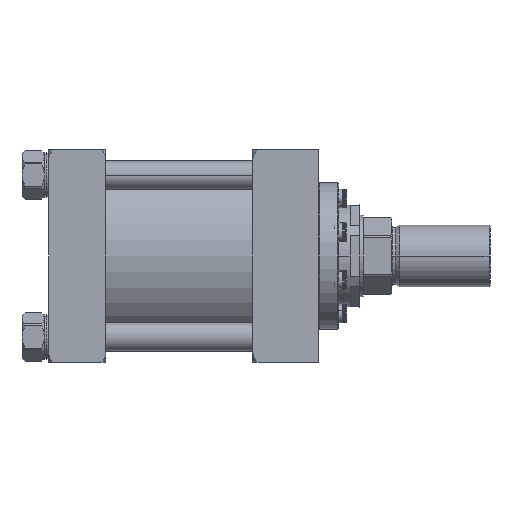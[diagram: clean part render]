
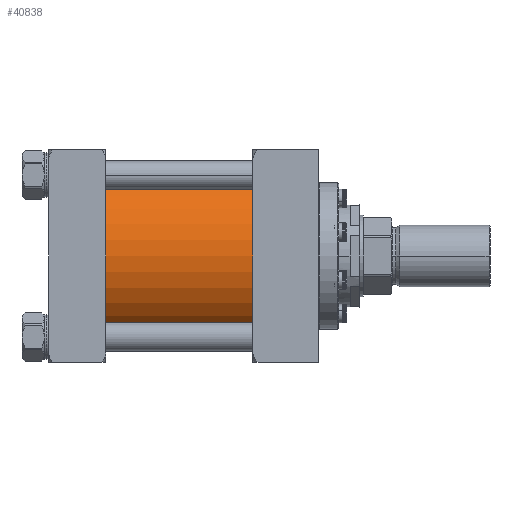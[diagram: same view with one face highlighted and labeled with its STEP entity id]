
A CAD part, front view. The second image highlights one B-rep face of the part: STEP entity #40838.
In plain terms, the highlighted cylindrical face has radius 73.025 mm (diameter 146.05 mm), a partial arc.
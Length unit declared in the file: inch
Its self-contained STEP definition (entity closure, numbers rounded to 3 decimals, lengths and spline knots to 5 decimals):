
#1746 = EDGE_CURVE ( 'NONE', #20973, #80579, #48781, .T. ) ;
#4973 = DIRECTION ( 'NONE',  ( 1., 0., 0. ) ) ;
#6193 = VERTEX_POINT ( 'NONE', #54156 ) ;
#7652 = DIRECTION ( 'NONE',  ( 1., 0., 0. ) ) ;
#10821 = DIRECTION ( 'NONE',  ( 0., 0., -1. ) ) ;
#20973 = VERTEX_POINT ( 'NONE', #67814 ) ;
#21320 = AXIS2_PLACEMENT_3D ( 'NONE', #39919, #4973, #68429 ) ;
#25832 = CIRCLE ( 'NONE', #21320, 2.875 ) ;
#26297 = DIRECTION ( 'NONE',  ( 1., 0., 0. ) ) ;
#27987 = ORIENTED_EDGE ( 'NONE', *, *, #59267, .T. ) ;
#33350 = DIRECTION ( 'NONE',  ( 1., 0., 0. ) ) ;
#33822 = FACE_OUTER_BOUND ( 'NONE', #70202, .T. ) ;
#36093 = CIRCLE ( 'NONE', #80120, 2.875 ) ;
#36338 = AXIS2_PLACEMENT_3D ( 'NONE', #89965, #33350, #10821 ) ;
#39919 = CARTESIAN_POINT ( 'NONE',  ( -4., 0., 0. ) ) ;
#40838 = ADVANCED_FACE ( 'NONE', ( #33822 ), #76153, .T. ) ;
#41373 = ORIENTED_EDGE ( 'NONE', *, *, #82720, .T. ) ;
#42642 = DIRECTION ( 'NONE',  ( 1., 0., 0. ) ) ;
#48781 = LINE ( 'NONE', #56410, #81497 ) ;
#49859 = ORIENTED_EDGE ( 'NONE', *, *, #1746, .F. ) ;
#52500 = CARTESIAN_POINT ( 'NONE',  ( -9., 0., -2.875 ) ) ;
#54156 = CARTESIAN_POINT ( 'NONE',  ( -4., 0., -2.875 ) ) ;
#56410 = CARTESIAN_POINT ( 'NONE',  ( -9., 0., 2.875 ) ) ;
#58228 = DIRECTION ( 'NONE',  ( 0., 1., 0. ) ) ;
#59267 = EDGE_CURVE ( 'NONE', #20973, #76858, #36093, .T. ) ;
#64245 = ORIENTED_EDGE ( 'NONE', *, *, #84850, .F. ) ;
#67814 = CARTESIAN_POINT ( 'NONE',  ( -9., 0., 2.875 ) ) ;
#68429 = DIRECTION ( 'NONE',  ( 0., 1., 0. ) ) ;
#69150 = CARTESIAN_POINT ( 'NONE',  ( -9., 0., -2.875 ) ) ;
#70202 = EDGE_LOOP ( 'NONE', ( #49859, #27987, #41373, #64245 ) ) ;
#76063 = CARTESIAN_POINT ( 'NONE',  ( -4., 0., 2.875 ) ) ;
#76153 = CYLINDRICAL_SURFACE ( 'NONE', #36338, 2.875 ) ;
#76858 = VERTEX_POINT ( 'NONE', #52500 ) ;
#80120 = AXIS2_PLACEMENT_3D ( 'NONE', #86758, #7652, #58228 ) ;
#80579 = VERTEX_POINT ( 'NONE', #76063 ) ;
#81497 = VECTOR ( 'NONE', #42642, 39.37008 ) ;
#82720 = EDGE_CURVE ( 'NONE', #76858, #6193, #84355, .T. ) ;
#82854 = VECTOR ( 'NONE', #26297, 39.37008 ) ;
#84355 = LINE ( 'NONE', #69150, #82854 ) ;
#84850 = EDGE_CURVE ( 'NONE', #80579, #6193, #25832, .T. ) ;
#86758 = CARTESIAN_POINT ( 'NONE',  ( -9., 0., 0. ) ) ;
#89965 = CARTESIAN_POINT ( 'NONE',  ( -9., 0., 0. ) ) ;
